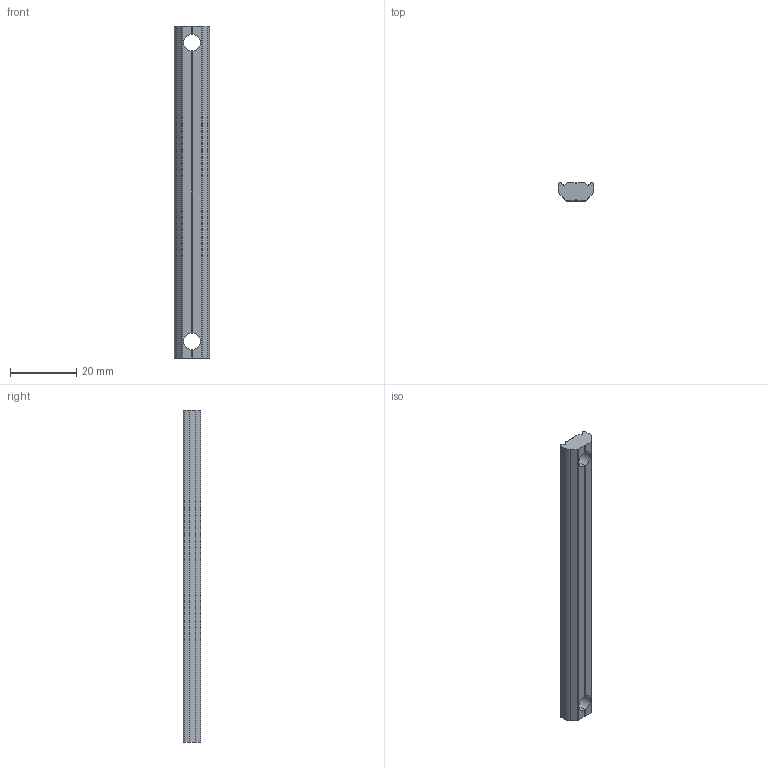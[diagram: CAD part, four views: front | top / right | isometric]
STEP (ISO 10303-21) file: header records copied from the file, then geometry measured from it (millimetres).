
FILE_DESCRIPTION (( 'STEP AP214' ), '1' );
FILE_NAME ('PTN-M5P90.STEP', '2019-10-30T02:39:31', ( '微软用户' ), ( '微软中国' ), 'SwSTEP 2.0', 'SolidWorks 2016', '' );
FILE_SCHEMA (( 'AUTOMOTIVE_DESIGN' ));
Length unit declared in the file: millimetre
Products named in the file (1): PTN-M5P90
Bounding box: 10.6 x 5.4 x 100 mm (x, y, z)
Volume: 4728.7 mm3; surface area: 3188.5 mm2
Topology: 1 solids, 1 shells, 50 faces, 156 edges, 104 vertices
Faces by surface type: plane 28, cylinder 22
Entity records: 1890 total; most frequent: CARTESIAN_POINT 503, ORIENTED_EDGE 312, DIRECTION 262, EDGE_CURVE 156, VERTEX_POINT 104, LINE 88, VECTOR 88, AXIS2_PLACEMENT_3D 87
